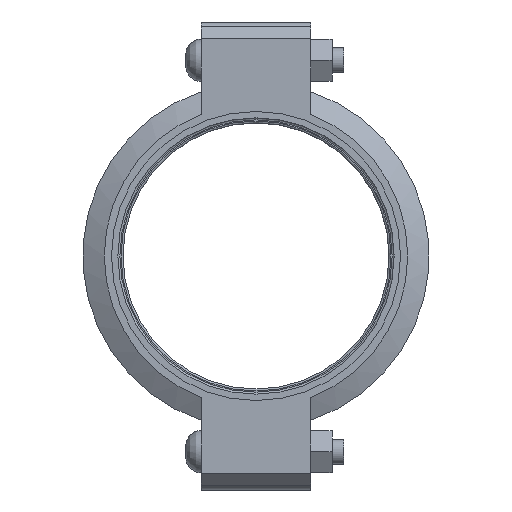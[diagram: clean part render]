
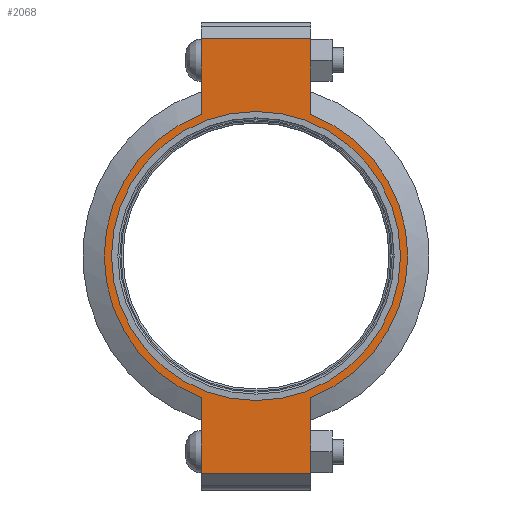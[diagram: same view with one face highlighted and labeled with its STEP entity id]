
A CAD part, left-side view. The second image highlights one B-rep face of the part: STEP entity #2068.
In plain terms, the highlighted planar face has unit normal (-1, 0, 0) as drawn and (0, 0, 1) by its records, which use the part's own axes.
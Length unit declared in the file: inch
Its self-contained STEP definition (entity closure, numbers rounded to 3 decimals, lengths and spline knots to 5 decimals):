
#174=LINE('',#3691,#273);
#182=LINE('',#3727,#281);
#189=LINE('',#3748,#288);
#198=LINE('',#3780,#297);
#199=LINE('',#3784,#298);
#200=LINE('',#3786,#299);
#273=VECTOR('',#3024,0.3937);
#281=VECTOR('',#3040,0.3937);
#288=VECTOR('',#3059,0.3937);
#297=VECTOR('',#3084,0.3937);
#298=VECTOR('',#3089,0.3937);
#299=VECTOR('',#3090,0.3937);
#360=FACE_BOUND('',#634,.T.);
#407=PLANE('',#2438);
#504=FACE_OUTER_BOUND('',#633,.T.);
#633=EDGE_LOOP('',(#1795,#1796,#1797,#1798,#1799,#1800,#1801,#1802));
#634=EDGE_LOOP('',(#1803));
#785=CIRCLE('',#2380,4.3125);
#811=CIRCLE('',#2439,4.53);
#812=CIRCLE('',#2440,4.53);
#940=VERTEX_POINT('',#3507);
#983=VERTEX_POINT('',#3688);
#984=VERTEX_POINT('',#3690);
#995=VERTEX_POINT('',#3722);
#996=VERTEX_POINT('',#3726);
#1003=VERTEX_POINT('',#3745);
#1004=VERTEX_POINT('',#3747);
#1014=VERTEX_POINT('',#3783);
#1015=VERTEX_POINT('',#3785);
#1181=EDGE_CURVE('',#940,#940,#785,.T.);
#1242=EDGE_CURVE('',#984,#983,#174,.T.);
#1256=EDGE_CURVE('',#996,#995,#182,.T.);
#1266=EDGE_CURVE('',#1004,#1003,#189,.T.);
#1281=EDGE_CURVE('',#996,#983,#198,.T.);
#1282=EDGE_CURVE('',#995,#1004,#811,.T.);
#1283=EDGE_CURVE('',#1014,#1003,#199,.T.);
#1284=EDGE_CURVE('',#1014,#1015,#200,.T.);
#1285=EDGE_CURVE('',#1015,#984,#812,.T.);
#1795=ORIENTED_EDGE('',*,*,#1281,.F.);
#1796=ORIENTED_EDGE('',*,*,#1256,.T.);
#1797=ORIENTED_EDGE('',*,*,#1282,.T.);
#1798=ORIENTED_EDGE('',*,*,#1266,.T.);
#1799=ORIENTED_EDGE('',*,*,#1283,.F.);
#1800=ORIENTED_EDGE('',*,*,#1284,.T.);
#1801=ORIENTED_EDGE('',*,*,#1285,.T.);
#1802=ORIENTED_EDGE('',*,*,#1242,.T.);
#1803=ORIENTED_EDGE('',*,*,#1181,.T.);
#2068=ADVANCED_FACE('',(#504,#360),#407,.T.);
#2380=AXIS2_PLACEMENT_3D('',#3509,#2900,#2901);
#2438=AXIS2_PLACEMENT_3D('',#3781,#3085,#3086);
#2439=AXIS2_PLACEMENT_3D('',#3782,#3087,#3088);
#2440=AXIS2_PLACEMENT_3D('',#3787,#3091,#3092);
#2900=DIRECTION('center_axis',(0.,0.,-1.));
#2901=DIRECTION('ref_axis',(1.,0.,0.));
#3024=DIRECTION('',(1.,0.,0.));
#3040=DIRECTION('',(-1.,0.,0.));
#3059=DIRECTION('',(-1.,0.,0.));
#3084=DIRECTION('',(0.,-1.,0.));
#3085=DIRECTION('center_axis',(0.,0.,1.));
#3086=DIRECTION('ref_axis',(-1.,0.,0.));
#3087=DIRECTION('center_axis',(0.,0.,1.));
#3088=DIRECTION('ref_axis',(1.,0.,0.));
#3089=DIRECTION('',(0.,1.,0.));
#3090=DIRECTION('',(1.,0.,0.));
#3091=DIRECTION('center_axis',(0.,0.,1.));
#3092=DIRECTION('ref_axis',(1.,0.,0.));
#3507=CARTESIAN_POINT('',(-4.3125,0.,1.16));
#3509=CARTESIAN_POINT('Origin',(0.,0.,1.16));
#3688=CARTESIAN_POINT('',(6.485,-1.63,1.16));
#3690=CARTESIAN_POINT('',(4.22658,-1.63,1.16));
#3691=CARTESIAN_POINT('',(6.985,-1.63,1.16));
#3722=CARTESIAN_POINT('',(4.22658,1.63,1.16));
#3726=CARTESIAN_POINT('',(6.485,1.63,1.16));
#3727=CARTESIAN_POINT('',(-6.985,1.63,1.16));
#3745=CARTESIAN_POINT('',(-6.485,1.63,1.16));
#3747=CARTESIAN_POINT('',(-4.22658,1.63,1.16));
#3748=CARTESIAN_POINT('',(-6.985,1.63,1.16));
#3780=CARTESIAN_POINT('',(6.485,-0.815,1.16));
#3781=CARTESIAN_POINT('Origin',(0.,0.,
1.16));
#3782=CARTESIAN_POINT('Origin',(0.,0.,1.16));
#3783=CARTESIAN_POINT('',(-6.485,-1.63,1.16));
#3784=CARTESIAN_POINT('',(-6.485,0.815,1.16));
#3785=CARTESIAN_POINT('',(-4.22658,-1.63,1.16));
#3786=CARTESIAN_POINT('',(6.985,-1.63,1.16));
#3787=CARTESIAN_POINT('Origin',(0.,0.,1.16));
